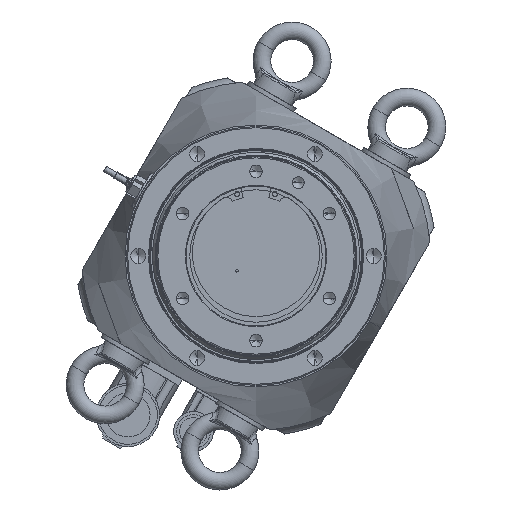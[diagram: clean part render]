
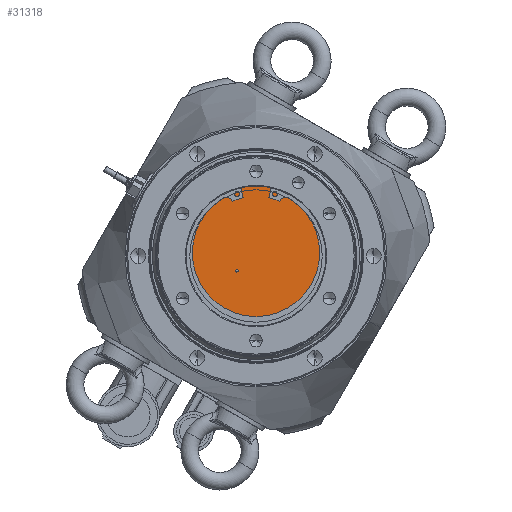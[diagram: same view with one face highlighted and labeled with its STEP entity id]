
A CAD part, front view. The second image highlights one B-rep face of the part: STEP entity #31318.
In plain terms, the highlighted planar face has unit normal (0, -1, 0).
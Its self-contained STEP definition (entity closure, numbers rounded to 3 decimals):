
#769 = DIRECTION ( 'NONE',  ( 0., 0., 1. ) ) ;
#907 = VERTEX_POINT ( 'NONE', #29570 ) ;
#3133 = CIRCLE ( 'NONE', #7148, 47.5 ) ;
#4015 = FACE_BOUND ( 'NONE', #23962, .T. ) ;
#7148 = AXIS2_PLACEMENT_3D ( 'NONE', #34424, #16100, #37467 ) ;
#8040 = CARTESIAN_POINT ( 'NONE',  ( 42.239, -290.221, 124.416 ) ) ;
#8210 = DIRECTION ( 'NONE',  ( 0., 1., 0. ) ) ;
#8782 = CARTESIAN_POINT ( 'NONE',  ( 55.209, -290.221, 181.909 ) ) ;
#9328 = AXIS2_PLACEMENT_3D ( 'NONE', #32495, #14174, #35568 ) ;
#9347 = EDGE_CURVE ( 'NONE', #907, #19728, #34660, .T. ) ;
#11125 = DIRECTION ( 'NONE',  ( 0., 0., 1. ) ) ;
#13020 = VERTEX_POINT ( 'NONE', #8782 ) ;
#14174 = DIRECTION ( 'NONE',  ( 0., 1., 0. ) ) ;
#14404 = AXIS2_PLACEMENT_3D ( 'NONE', #38707, #8210, #29650 ) ;
#16100 = DIRECTION ( 'NONE',  ( 0., 1., 0. ) ) ;
#19120 = DIRECTION ( 'NONE',  ( 0., 1., 0. ) ) ;
#19188 = AXIS2_PLACEMENT_3D ( 'NONE', #8040, #29472, #11125 ) ;
#19728 = VERTEX_POINT ( 'NONE', #27451 ) ;
#20474 = ORIENTED_EDGE ( 'NONE', *, *, #30158, .F. ) ;
#23462 = CARTESIAN_POINT ( 'NONE',  ( 55.209, -290.221, 86.909 ) ) ;
#23962 = EDGE_LOOP ( 'NONE', ( #30699, #27448 ) ) ;
#27448 = ORIENTED_EDGE ( 'NONE', *, *, #28893, .T. ) ;
#27451 = CARTESIAN_POINT ( 'NONE',  ( 42.239, -290.221, 125.416 ) ) ;
#28893 = EDGE_CURVE ( 'NONE', #19728, #907, #35057, .T. ) ;
#29227 = CIRCLE ( 'NONE', #9328, 47.5 ) ;
#29472 = DIRECTION ( 'NONE',  ( 0., 1., 0. ) ) ;
#29570 = CARTESIAN_POINT ( 'NONE',  ( 42.239, -290.221, 123.416 ) ) ;
#29650 = DIRECTION ( 'NONE',  ( 0., 0., 1. ) ) ;
#30158 = EDGE_CURVE ( 'NONE', #35013, #13020, #3133, .T. ) ;
#30400 = FACE_OUTER_BOUND ( 'NONE', #39339, .T. ) ;
#30550 = ORIENTED_EDGE ( 'NONE', *, *, #34375, .F. ) ;
#30699 = ORIENTED_EDGE ( 'NONE', *, *, #9347, .T. ) ;
#30703 = AXIS2_PLACEMENT_3D ( 'NONE', #37412, #19120, #769 ) ;
#31318 = ADVANCED_FACE ( 'NONE', ( #30400, #4015 ), #32575, .F. ) ;
#32495 = CARTESIAN_POINT ( 'NONE',  ( 55.209, -290.221, 134.409 ) ) ;
#32575 = PLANE ( 'NONE',  #14404 ) ;
#34375 = EDGE_CURVE ( 'NONE', #13020, #35013, #29227, .T. ) ;
#34424 = CARTESIAN_POINT ( 'NONE',  ( 55.209, -290.221, 134.409 ) ) ;
#34660 = CIRCLE ( 'NONE', #30703, 1. ) ;
#35013 = VERTEX_POINT ( 'NONE', #23462 ) ;
#35057 = CIRCLE ( 'NONE', #19188, 1. ) ;
#35568 = DIRECTION ( 'NONE',  ( 0., 0., 1. ) ) ;
#37412 = CARTESIAN_POINT ( 'NONE',  ( 42.239, -290.221, 124.416 ) ) ;
#37467 = DIRECTION ( 'NONE',  ( 0., 0., 1. ) ) ;
#38707 = CARTESIAN_POINT ( 'NONE',  ( 55.209, -290.221, 134.409 ) ) ;
#39339 = EDGE_LOOP ( 'NONE', ( #20474, #30550 ) ) ;
